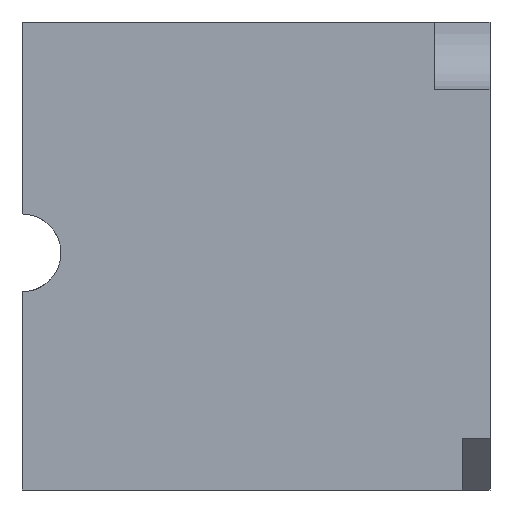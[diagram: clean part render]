
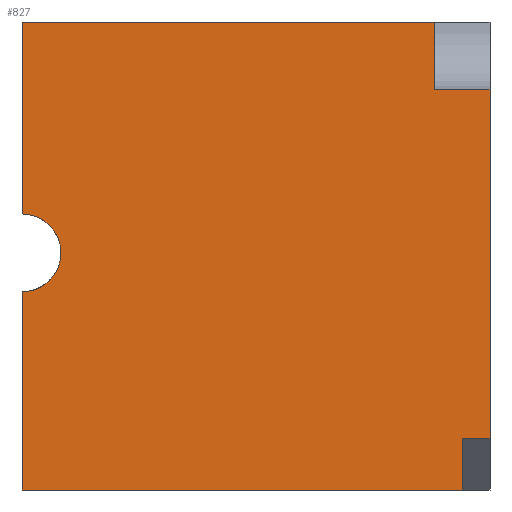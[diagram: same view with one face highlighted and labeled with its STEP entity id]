
A CAD part, left-side view. The second image highlights one B-rep face of the part: STEP entity #827.
In plain terms, the highlighted planar face has unit normal (-1, 0, 0).
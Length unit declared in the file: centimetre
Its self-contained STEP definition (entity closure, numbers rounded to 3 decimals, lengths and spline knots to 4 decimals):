
#4 = CARTESIAN_POINT ( 'NONE',  ( 0., 0., 110.2534 ) ) ;
#8 = LINE ( 'NONE', #633, #311 ) ;
#19 = CARTESIAN_POINT ( 'NONE',  ( 0., 1000., 589.8508 ) ) ;
#28 = PLANE ( 'NONE',  #1182 ) ;
#33 = VERTEX_POINT ( 'NONE', #960 ) ;
#57 = ORIENTED_EDGE ( 'NONE', *, *, #256, .T. ) ;
#62 = DIRECTION ( 'NONE',  ( 0., -1., 0. ) ) ;
#76 = CARTESIAN_POINT ( 'NONE',  ( 0., 118.5724, 1000. ) ) ;
#78 = VERTEX_POINT ( 'NONE', #625 ) ;
#96 = DIRECTION ( 'NONE',  ( 0., 0., -1. ) ) ;
#111 = ORIENTED_EDGE ( 'NONE', *, *, #866, .T. ) ;
#136 = CARTESIAN_POINT ( 'NONE',  ( 0., 1000., 0. ) ) ;
#185 = DIRECTION ( 'NONE',  ( 0., 0., -1. ) ) ;
#186 = DIRECTION ( 'NONE',  ( 0., 0., -1. ) ) ;
#193 = EDGE_CURVE ( 'NONE', #78, #660, #721, .T. ) ;
#196 = CARTESIAN_POINT ( 'NONE',  ( 0., 1000., 423.4144 ) ) ;
#197 = EDGE_CURVE ( 'NONE', #246, #510, #1091, .T. ) ;
#205 = ORIENTED_EDGE ( 'NONE', *, *, #197, .T. ) ;
#222 = ORIENTED_EDGE ( 'NONE', *, *, #1010, .T. ) ;
#240 = EDGE_CURVE ( 'NONE', #660, #1127, #662, .T. ) ;
#242 = CARTESIAN_POINT ( 'NONE',  ( 0., 59.1587, 0. ) ) ;
#246 = VERTEX_POINT ( 'NONE', #196 ) ;
#256 = EDGE_CURVE ( 'NONE', #348, #246, #471, .T. ) ;
#276 = CARTESIAN_POINT ( 'NONE',  ( 0., 1000., 506.6326 ) ) ;
#311 = VECTOR ( 'NONE', #1092, 100. ) ;
#345 = LINE ( 'NONE', #1178, #371 ) ;
#348 = VERTEX_POINT ( 'NONE', #19 ) ;
#350 = CARTESIAN_POINT ( 'NONE',  ( 0., 118.5724, 854.9498 ) ) ;
#356 = CARTESIAN_POINT ( 'NONE',  ( 0., 59.1587, 110.2534 ) ) ;
#371 = VECTOR ( 'NONE', #449, 100. ) ;
#389 = CARTESIAN_POINT ( 'NONE',  ( 0., 1000., 1000. ) ) ;
#449 = DIRECTION ( 'NONE',  ( 0., 0., -1. ) ) ;
#471 = CIRCLE ( 'NONE', #1146, 83.2182 ) ;
#483 = DIRECTION ( 'NONE',  ( 1., 0., 0. ) ) ;
#504 = VECTOR ( 'NONE', #737, 100. ) ;
#510 = VERTEX_POINT ( 'NONE', #136 ) ;
#542 = LINE ( 'NONE', #549, #504 ) ;
#549 = CARTESIAN_POINT ( 'NONE',  ( 0., 118.5724, 854.9498 ) ) ;
#555 = LINE ( 'NONE', #1012, #568 ) ;
#568 = VECTOR ( 'NONE', #185, 100. ) ;
#570 = VECTOR ( 'NONE', #186, 100. ) ;
#611 = DIRECTION ( 'NONE',  ( 0., -1., 0. ) ) ;
#614 = ORIENTED_EDGE ( 'NONE', *, *, #193, .F. ) ;
#625 = CARTESIAN_POINT ( 'NONE',  ( 0., 1000., 1000. ) ) ;
#633 = CARTESIAN_POINT ( 'NONE',  ( 0., 59.1587, 0. ) ) ;
#657 = EDGE_CURVE ( 'NONE', #510, #974, #1162, .T. ) ;
#660 = VERTEX_POINT ( 'NONE', #76 ) ;
#662 = LINE ( 'NONE', #751, #676 ) ;
#676 = VECTOR ( 'NONE', #825, 100. ) ;
#685 = ORIENTED_EDGE ( 'NONE', *, *, #240, .F. ) ;
#690 = ORIENTED_EDGE ( 'NONE', *, *, #715, .T. ) ;
#701 = DIRECTION ( 'NONE',  ( 0., -1., 0. ) ) ;
#715 = EDGE_CURVE ( 'NONE', #78, #348, #555, .T. ) ;
#721 = LINE ( 'NONE', #888, #736 ) ;
#724 = CARTESIAN_POINT ( 'NONE',  ( 0., 59.1587, 110.2534 ) ) ;
#732 = CARTESIAN_POINT ( 'NONE',  ( 0., 1000., 1000. ) ) ;
#736 = VECTOR ( 'NONE', #62, 100. ) ;
#737 = DIRECTION ( 'NONE',  ( 0., 1., 0. ) ) ;
#744 = DIRECTION ( 'NONE',  ( 0., 0., -1. ) ) ;
#751 = CARTESIAN_POINT ( 'NONE',  ( 0., 118.5724, 1000. ) ) ;
#758 = EDGE_LOOP ( 'NONE', ( #690, #57, #205, #966, #1015, #222, #961, #111, #685, #614 ) ) ;
#759 = DIRECTION ( 'NONE',  ( 1., 0., 0. ) ) ;
#772 = VECTOR ( 'NONE', #701, 100. ) ;
#806 = LINE ( 'NONE', #724, #772 ) ;
#825 = DIRECTION ( 'NONE',  ( 0., 0., -1. ) ) ;
#827 = ADVANCED_FACE ( 'NONE', ( #1131 ), #28, .F. ) ;
#836 = EDGE_CURVE ( 'NONE', #1152, #974, #8, .T. ) ;
#855 = VERTEX_POINT ( 'NONE', #4 ) ;
#866 = EDGE_CURVE ( 'NONE', #33, #1127, #542, .T. ) ;
#877 = VECTOR ( 'NONE', #611, 100. ) ;
#888 = CARTESIAN_POINT ( 'NONE',  ( 0., 1000., 1000. ) ) ;
#960 = CARTESIAN_POINT ( 'NONE',  ( 0., 0., 854.9498 ) ) ;
#961 = ORIENTED_EDGE ( 'NONE', *, *, #1126, .F. ) ;
#966 = ORIENTED_EDGE ( 'NONE', *, *, #657, .T. ) ;
#974 = VERTEX_POINT ( 'NONE', #242 ) ;
#1010 = EDGE_CURVE ( 'NONE', #1152, #855, #806, .T. ) ;
#1012 = CARTESIAN_POINT ( 'NONE',  ( 0., 1000., 1000. ) ) ;
#1015 = ORIENTED_EDGE ( 'NONE', *, *, #836, .F. ) ;
#1072 = CARTESIAN_POINT ( 'NONE',  ( 0., 1000., 0. ) ) ;
#1091 = LINE ( 'NONE', #732, #570 ) ;
#1092 = DIRECTION ( 'NONE',  ( 0., 0., -1. ) ) ;
#1126 = EDGE_CURVE ( 'NONE', #33, #855, #345, .T. ) ;
#1127 = VERTEX_POINT ( 'NONE', #350 ) ;
#1131 = FACE_OUTER_BOUND ( 'NONE', #758, .T. ) ;
#1146 = AXIS2_PLACEMENT_3D ( 'NONE', #276, #483, #96 ) ;
#1152 = VERTEX_POINT ( 'NONE', #356 ) ;
#1162 = LINE ( 'NONE', #1072, #877 ) ;
#1178 = CARTESIAN_POINT ( 'NONE',  ( 0., 0., 1000. ) ) ;
#1182 = AXIS2_PLACEMENT_3D ( 'NONE', #389, #759, #744 ) ;
